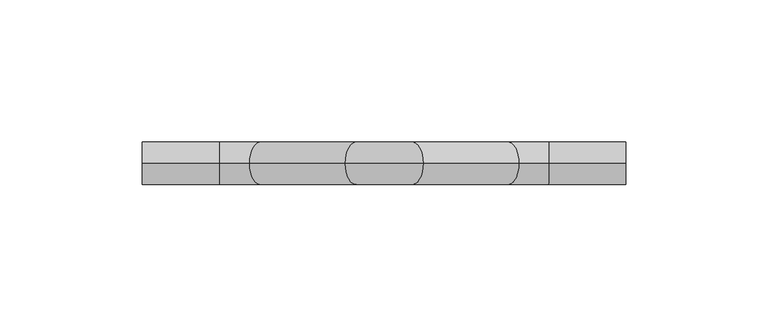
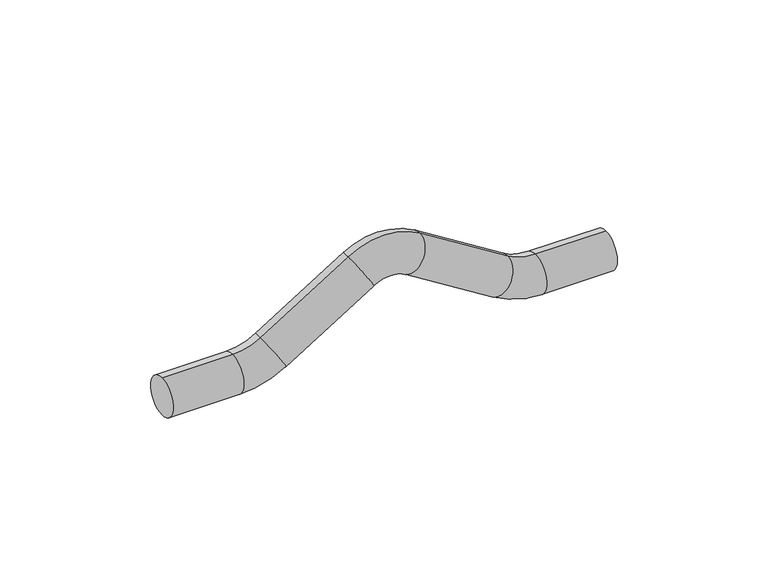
"""IFC4 building model written with IfcOpenShell, lengths in millimetres: pipe fitting geometry, РЕХАУ_Пресс Обвод : Обвод 15."""

import ifcopenshell
import ifcopenshell.guid

model = None  # the IFC model being written
_history = None  # IfcOwnerHistory: only IFC2X3 demands one
_inside = {}  # id of a spatial element -> (the spatial element, [elements in it])
_under = {}  # id of a project, library or spatial element -> (it, [spatial elements below it])
_declared = {}  # id of a project -> (the project, [libraries it declares])
_typed = {}  # id of a type object -> (the type object, [elements of that type])
_made_of = {}  # id of a material, layer set ... -> (it, [elements and type objects made of it])


def new_model(schema):
    """Start an empty IFC model of exactly this schema.

    Asked for "IFC4X3", IfcOpenShell would pick the latest addendum, in which some entities
    have other attributes; the version numbers below select the first issue.
    IFC2X3 requires an IfcOwnerHistory on every rooted entity: one is made here for all.
    """
    global model, _history
    if schema == "IFC4X3":
        model = ifcopenshell.file(schema_version=(4, 3, 0, 0))
    else:
        model = ifcopenshell.file(schema=schema)
    _inside.clear()
    _under.clear()
    _declared.clear()
    _typed.clear()
    _made_of.clear()
    _history = None
    if model.schema == "IFC2X3":
        org = make("IfcOrganization", Name="unknown")
        user = make(
            "IfcPersonAndOrganization",
            ThePerson=make("IfcPerson", FamilyName="unknown"),
            TheOrganization=org,
        )
        app = make(
            "IfcApplication",
            ApplicationDeveloper=org,
            Version="unknown",
            ApplicationFullName="unknown",
            ApplicationIdentifier="unknown",
        )
        _history = make(
            "IfcOwnerHistory",
            OwningUser=user,
            OwningApplication=app,
            ChangeAction="ADDED",
            CreationDate=0,
        )
    return model


def make(cls, **values):
    """One entity of the class cls with the attributes given. An attribute that is None is left unset."""
    return model.create_entity(
        cls, **{name: value for name, value in values.items() if value is not None}
    )


def rooted(cls, **values):
    """An entity with a GlobalId (a new one), such as an element, a storey or a relation."""
    return make(cls, GlobalId=ifcopenshell.guid.new(), OwnerHistory=_history, **values)


def si_unit(unit_type, name, prefix=None):
    """IfcSIUnit, for example si_unit("LENGTHUNIT", "METRE", prefix="MILLI")."""
    return make("IfcSIUnit", UnitType=unit_type, Prefix=prefix, Name=name)


def assignment(units):
    """IfcUnitAssignment: the units of a project."""
    return None if units is None else make("IfcUnitAssignment", Units=units)


def point(xyz):
    """IfcCartesianPoint."""
    return None if xyz is None else make("IfcCartesianPoint", Coordinates=xyz)


def direction(xyz):
    """IfcDirection."""
    return None if xyz is None else make("IfcDirection", DirectionRatios=xyz)


def frame(location, z_axis=None, x_axis=None):
    """IfcAxis2Placement3D, a coordinate frame: its origin and axes. An axis left out is left unset."""
    return make(
        "IfcAxis2Placement3D",
        Location=point(location),
        Axis=direction(z_axis),
        RefDirection=direction(x_axis),
    )


def origin():
    """The frame at (0, 0, 0) with its axes left unset."""
    return frame((0.0, 0.0, 0.0))


def place(relative_to, where):
    """IfcLocalPlacement: puts the frame where relative to a parent placement (None: the world)."""
    return make(
        "IfcLocalPlacement", PlacementRelTo=relative_to, RelativePlacement=where
    )


def context(
    kind, dimensions, precision=None, world=None, true_north=None, identifier=None
):
    """IfcGeometricRepresentationContext, for example the 3D "Model" context."""
    return make(
        "IfcGeometricRepresentationContext",
        ContextIdentifier=identifier,
        ContextType=kind,
        CoordinateSpaceDimension=dimensions,
        Precision=precision,
        WorldCoordinateSystem=world,
        TrueNorth=true_north,
    )


def project(units=None, contexts=None):
    """IfcProject with its units and contexts."""
    return rooted(
        "IfcProject",
        Name="project",
        RepresentationContexts=contexts,
        UnitsInContext=assignment(units),
    )


def spatial(cls, under=None, at=None, **own):
    """A site, building, storey or space (cls), placed at a placement, below another one or the project."""
    s = rooted(cls, ObjectPlacement=at, **own)
    if under is not None:
        _under.setdefault(under.id(), (under, []))[1].append(s)
    return s


def circle_curve(where, radius):
    """IfcCircle in the frame where."""
    return make("IfcCircle", Position=where, Radius=radius)


def ellipse_curve(where, semi_axis1, semi_axis2):
    """IfcEllipse in the frame where."""
    return make(
        "IfcEllipse", Position=where, SemiAxis1=semi_axis1, SemiAxis2=semi_axis2
    )


def trimmed(basis, trim1, trim2, sense, master):
    """IfcTrimmedCurve: the piece of a basis curve between two trims."""
    return make(
        "IfcTrimmedCurve",
        BasisCurve=basis,
        Trim1=trim1,
        Trim2=trim2,
        SenseAgreement=sense,
        MasterRepresentation=master,
    )


def shape(context_of_items, identifier, shape_type, items):
    """IfcShapeRepresentation: the items that make up one representation, for example the "Body"."""
    return make(
        "IfcShapeRepresentation",
        ContextOfItems=context_of_items,
        RepresentationIdentifier=identifier,
        RepresentationType=shape_type,
        Items=items,
    )


def source(mapping_origin, context_of_items, identifier, shape_type, items):
    """IfcRepresentationMap: a shape defined once, which mapped items show again and again."""
    return make(
        "IfcRepresentationMap",
        MappingOrigin=mapping_origin,
        MappedRepresentation=shape(context_of_items, identifier, shape_type, items),
    )


def transform(
    local_origin,
    x_axis=None,
    y_axis=None,
    z_axis=None,
    scale=None,
    scale2=None,
    scale3=None,
    uniform=True,
):
    """IfcCartesianTransformationOperator3D, or its non-uniform kind. x_axis, y_axis, z_axis: its Axis1, 2, 3."""
    if uniform:
        return make(
            "IfcCartesianTransformationOperator3D",
            Axis1=direction(x_axis),
            Axis2=direction(y_axis),
            LocalOrigin=point(local_origin),
            Scale=scale,
            Axis3=direction(z_axis),
        )
    return make(
        "IfcCartesianTransformationOperator3DnonUniform",
        Axis1=direction(x_axis),
        Axis2=direction(y_axis),
        LocalOrigin=point(local_origin),
        Scale=scale,
        Axis3=direction(z_axis),
        Scale2=scale2,
        Scale3=scale3,
    )


def mapped(mapping_source, mapping_target):
    """IfcMappedItem: shows the shape of a source again, moved by a transform."""
    return make(
        "IfcMappedItem", MappingSource=mapping_source, MappingTarget=mapping_target
    )


def made_of(thing, what):
    """Note that an element or type object is made of a material, layer set ...; save() writes the relation."""
    if what is not None:
        _made_of.setdefault(what.id(), (what, []))[1].append(thing)
    return thing


def element(
    cls,
    number,
    at=None,
    inside=None,
    cuts=None,
    type_object=None,
    material=None,
    context=None,
    identifier="Body",
    shape_type=None,
    held_by="IfcProductDefinitionShape",
    body=None,
    shapes=None,
    **own,
):
    """One element of the class cls, such as IfcWall. Its Tag is "e" and its number.

    at: its placement. inside: the storey or other place that contains it. cuts: it is an
    opening in that element (IfcRelVoidsElement). A single representation is given by context,
    identifier, shape_type and body (its items); several are given by shapes. held_by: the class
    of the entity that holds the representations. save() writes the other relations.
    """
    e = rooted(cls, Tag="e%d" % number, ObjectPlacement=at, **own)
    if body is not None:
        shapes = [shape(context, identifier, shape_type, body)]
    if shapes is not None:
        e.Representation = make(held_by, Representations=shapes)
    if inside is not None:
        _inside.setdefault(inside.id(), (inside, []))[1].append(e)
    if cuts is not None:
        rooted(
            "IfcRelVoidsElement", RelatingBuildingElement=cuts, RelatedOpeningElement=e
        )
    if type_object is not None:
        _typed.setdefault(type_object.id(), (type_object, []))[1].append(e)
    return made_of(e, material)


def aggregate(whole, parts):
    """IfcRelAggregates: a whole, such as a stair, and the parts it consists of."""
    return rooted("IfcRelAggregates", RelatingObject=whole, RelatedObjects=parts)


def save(model, path):
    """Write the relations noted so far, then the file.

    IfcRelAggregates (storeys below a building ...), IfcRelContainedInSpatialStructure (elements
    in a storey), IfcRelDefinesByType, IfcRelAssociatesMaterial and IfcRelDeclares: one each for
    every whole, place, type object, material and project.
    """
    for whole, parts in _under.values():
        aggregate(whole, parts)
    for where, things in _inside.values():
        rooted(
            "IfcRelContainedInSpatialStructure",
            RelatedElements=things,
            RelatingStructure=where,
        )
    for kind, things in _typed.values():
        rooted("IfcRelDefinesByType", RelatedObjects=things, RelatingType=kind)
    for what, things in _made_of.values():
        rooted("IfcRelAssociatesMaterial", RelatedObjects=things, RelatingMaterial=what)
    for by, libraries in _declared.values():
        rooted("IfcRelDeclares", RelatingContext=by, RelatedDefinitions=libraries)
    model.write(path)


def plane_surface(at):
    """IfcPlane: the flat surface through the origin of the frame at, square to its z axis."""
    return make("IfcPlane", Position=at)


def cylinder_surface(at, radius):
    """IfcCylindricalSurface: all points at the distance radius from the z axis of the frame at."""
    return make("IfcCylindricalSurface", Position=at, Radius=radius)


def revolved_surface(curve, axis_point, axis_direction):
    """IfcSurfaceOfRevolution: the curve turned about the line through axis_point along axis_direction."""
    return make(
        "IfcSurfaceOfRevolution",
        SweptCurve=make("IfcArbitraryOpenProfileDef", ProfileType="CURVE", Curve=curve),
        AxisPosition=make("IfcAxis1Placement", Location=point(axis_point), Axis=direction(axis_direction)),
    )


def advanced_brep(points, edges, surfaces, faces):
    """IfcAdvancedBrep: a solid bounded by faces that lie on surfaces and meet in shared edges.

    An edge is (start, end): straight between two places in points (the first is 0);
    or (start, end, curve); or (start, end, curve, False) where it runs against its curve.
    A face is (place in surfaces, loops), or (place, loops, False) where it looks against
    its surface's normal. A loop lists edges by number (the first is 1), with a minus sign
    where the edge is run from its end to its start. The first loop is the outer one.
    """
    corners = [point(p) for p in points]
    vertices = [make("IfcVertexPoint", VertexGeometry=c) for c in corners]
    made = []
    for start, end, *more in edges:
        made.append(
            make(
                "IfcEdgeCurve",
                EdgeStart=vertices[start],
                EdgeEnd=vertices[end],
                EdgeGeometry=more[0] if more else make("IfcPolyline", Points=[corners[start], corners[end]]),
                SameSense=more[1] if len(more) > 1 else True,
            )
        )
    hull = []
    for where, loops, *sense in faces:
        bounds = []
        for j, loop in enumerate(loops):
            ring = [make("IfcOrientedEdge", EdgeElement=made[abs(k) - 1], Orientation=k > 0) for k in loop]
            bounds.append(
                make(
                    "IfcFaceOuterBound" if j == 0 else "IfcFaceBound",
                    Bound=make("IfcEdgeLoop", EdgeList=ring),
                    Orientation=True,
                )
            )
        hull.append(make("IfcAdvancedFace", Bounds=bounds, FaceSurface=surfaces[where], SameSense=sense[0] if sense else True))
    return make("IfcAdvancedBrep", Outer=make("IfcClosedShell", CfsFaces=hull))


def pipe_fitting_329b4943(model_context):
    return source(origin(), model_context, "Body", "AdvancedBrep", [
        advanced_brep(
        [(0.0, 0.0, -7.5), (0.0, 0.0, 7.5), (27.0, 0.0, -7.5), (27.0, 0.0, 7.5), (37.5983853, 0.0, 10.5390381), (45.5471742, 0.0, -2.1816834), (79.1702497, 0.0, 18.828346), (71.2214607, 0.0, 31.5490674), (98.7785393, 0.0, 31.5490674), (90.8297503, 0.0, 18.828346), (124.4528258, 0.0, -2.1816834), (132.4016147, 0.0, 10.5390381), (143.0, 0.0, 7.5), (143.0, 0.0, -7.5), (170.0, 0.0, -7.5), (170.0, 0.0, 7.5)],
        [
            (0, 1, circle_curve(frame((0.0, 0.0, 0.0), z_axis=(-1.0, 0.0, 0.0), x_axis=(0.0, 0.0, 1.0)), 7.5)),
            (1, 0, circle_curve(frame((0.0, 0.0, 0.0), z_axis=(-1.0, 0.0, 0.0), x_axis=(0.0, 0.0, 1.0)), 7.5)),
            (0, 2),
            (2, 3, circle_curve(frame((27.0, 0.0, 0.0), z_axis=(-1.0, 0.0, 0.0), x_axis=(0.0, 0.0, 1.0)), 7.5)),
            (3, 1),
            (3, 2, circle_curve(frame((27.0, 0.0, 0.0), z_axis=(-1.0, 0.0, 0.0), x_axis=(0.0, 0.0, 1.0)), 7.5)),
            (4, 3, circle_curve(frame((27.0, 0.0, 27.5), z_axis=(0.0, 1.0, 0.0), x_axis=(0.0, 0.0, -1.0)), 20.0)),
            (2, 5, circle_curve(frame((27.0, 0.0, 27.5), z_axis=(0.0, -1.0, 0.0), x_axis=(0.0, 0.0, -1.0)), 35.0)),
            (5, 4, circle_curve(frame((41.5727798, 0.0, 4.1786774), z_axis=(-0.8480480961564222, 0.0, -0.529919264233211), x_axis=(-0.529919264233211, 0.0, 0.8480480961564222)), 7.5)),
            (4, 5, circle_curve(frame((41.5727798, 0.0, 4.1786774), z_axis=(-0.8480480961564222, 0.0, -0.5299192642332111), x_axis=(-0.5299192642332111, 0.0, 0.8480480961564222)), 7.5)),
            (5, 6),
            (6, 7, circle_curve(frame((75.1958552, 0.0, 25.1887067), z_axis=(-0.8480480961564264, 0.0, -0.5299192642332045), x_axis=(-0.5299192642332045, 0.0, 0.8480480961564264)), 7.5)),
            (7, 4),
            (7, 6, circle_curve(frame((75.1958552, 0.0, 25.1887067), z_axis=(-0.8480480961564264, 0.0, -0.5299192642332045), x_axis=(-0.5299192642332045, 0.0, 0.8480480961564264)), 7.5)),
            (8, 7, circle_curve(frame((85.0, 0.0, 9.4987953), z_axis=(0.0, -1.0, 0.0), x_axis=(-0.5299192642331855, 0.0, 0.8480480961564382)), 26.0012047)),
            (6, 9, circle_curve(frame((85.0, 0.0, 9.4987953), z_axis=(0.0, 1.0, 0.0), x_axis=(-0.5299192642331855, 0.0, 0.8480480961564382)), 11.0012047)),
            (9, 8, circle_curve(frame((94.8041448, 0.0, 25.1887067), z_axis=(-0.8480480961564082, 0.0, 0.5299192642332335), x_axis=(0.5299192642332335, 0.0, 0.8480480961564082)), 7.5)),
            (8, 9, circle_curve(frame((94.8041448, 0.0, 25.1887067), z_axis=(-0.8480480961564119, 0.0, 0.5299192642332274), x_axis=(0.5299192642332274, 0.0, 0.8480480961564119)), 7.5)),
            (9, 10),
            (10, 11, circle_curve(frame((128.4272202, 0.0, 4.1786774), z_axis=(-0.8480480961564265, 0.0, 0.5299192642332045), x_axis=(0.5299192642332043, 0.0, 0.8480480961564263)), 7.5)),
            (11, 8),
            (11, 10, circle_curve(frame((128.4272202, 0.0, 4.1786774), z_axis=(-0.8480480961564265, 0.0, 0.5299192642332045), x_axis=(0.5299192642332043, 0.0, 0.8480480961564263)), 7.5)),
            (12, 11, circle_curve(frame((143.0, 0.0, 27.5), z_axis=(0.0, 1.0, 0.0), x_axis=(-0.5299192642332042, 0.0, -0.8480480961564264)), 20.0)),
            (10, 13, circle_curve(frame((143.0, 0.0, 27.5), z_axis=(0.0, -1.0, 0.0), x_axis=(-0.5299192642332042, 0.0, -0.8480480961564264)), 35.0)),
            (13, 12, circle_curve(frame((143.0, 0.0, 0.0), z_axis=(-1.0, 0.0, 0.0), x_axis=(0.0, 0.0, 1.0)), 7.5)),
            (12, 13, circle_curve(frame((143.0, 0.0, 0.0), z_axis=(-1.0, 0.0, 0.0), x_axis=(0.0, 0.0, 1.0)), 7.5)),
            (14, 15, circle_curve(frame((170.0, 0.0, 0.0), z_axis=(1.0, 0.0, 0.0), x_axis=(0.0, 0.0, 1.0)), 7.5)),
            (15, 14, circle_curve(frame((170.0, 0.0, 0.0), z_axis=(1.0, 0.0, 0.0), x_axis=(0.0, 0.0, 1.0)), 7.5)),
            (13, 14),
            (15, 12),
        ],
        [
            plane_surface(frame((0.0, 0.0, 0.0), z_axis=(-1.0, 0.0, 0.0), x_axis=(0.0, -1.0, 0.0))),
            cylinder_surface(frame((0.0, 0.0, 0.0), z_axis=(-1.0, 0.0, 0.0), x_axis=(0.0, 0.0, 1.0)), 7.5),
            revolved_surface(trimmed(ellipse_curve(frame((27.0, 0.0, 0.0), z_axis=(-1.0, 0.0, 0.0), x_axis=(0.0, 0.0, 1.0)), 7.5, 7.5), [point((27.0, 0.0, -7.5))], [point((27.0, 0.0, 7.5))], True, "CARTESIAN"), (27.0, 0.0, 27.5), (0.0, -1.0, 0.0)),
            revolved_surface(trimmed(ellipse_curve(frame((27.0, 0.0, 0.0), z_axis=(-1.0, 0.0, 0.0), x_axis=(0.0, 0.0, 1.0)), 7.5, 7.5), [point((27.0, 0.0, 7.5))], [point((27.0, 0.0, -7.5))], True, "CARTESIAN"), (27.0, 0.0, 27.5), (0.0, -1.0, 0.0)),
            cylinder_surface(frame((41.5727798, 0.0, 4.1786774), z_axis=(-0.8480480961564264, 0.0, -0.5299192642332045), x_axis=(-0.5299192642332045, 0.0, 0.8480480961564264)), 7.5),
            revolved_surface(trimmed(ellipse_curve(frame((75.1958552, 0.0, 25.1887067), z_axis=(-0.8480480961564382, 0.0, -0.5299192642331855), x_axis=(-0.5299192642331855, 0.0, 0.8480480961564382)), 7.5, 7.5), [point((79.1702497, 0.0, 18.828346))], [point((71.2214607, 0.0, 31.5490674))], True, "CARTESIAN"), (85.0, 0.0, 9.4987953), (0.0, 1.0, 0.0)),
            revolved_surface(trimmed(ellipse_curve(frame((75.1958552, 0.0, 25.1887067), z_axis=(-0.8480480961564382, 0.0, -0.5299192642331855), x_axis=(-0.5299192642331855, 0.0, 0.8480480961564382)), 7.5, 7.5), [point((71.2214607, 0.0, 31.5490674))], [point((79.1702497, 0.0, 18.828346))], True, "CARTESIAN"), (85.0, 0.0, 9.4987953), (0.0, 1.0, 0.0)),
            cylinder_surface(frame((94.8041448, 0.0, 25.1887067), z_axis=(-0.8480480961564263, 0.0, 0.5299192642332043), x_axis=(0.5299192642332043, 0.0, 0.8480480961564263)), 7.5),
            revolved_surface(trimmed(ellipse_curve(frame((128.4272202, 0.0, 4.1786774), z_axis=(-0.8480480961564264, 0.0, 0.5299192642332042), x_axis=(0.5299192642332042, 0.0, 0.8480480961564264)), 7.5, 7.5), [point((124.4528258, 0.0, -2.1816834))], [point((132.4016147, 0.0, 10.5390381))], True, "CARTESIAN"), (143.0, 0.0, 27.5), (0.0, -1.0, 0.0)),
            revolved_surface(trimmed(ellipse_curve(frame((128.4272202, 0.0, 4.1786774), z_axis=(-0.8480480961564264, 0.0, 0.5299192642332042), x_axis=(0.5299192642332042, 0.0, 0.8480480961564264)), 7.5, 7.5), [point((132.4016147, 0.0, 10.5390381))], [point((124.4528258, 0.0, -2.1816834))], True, "CARTESIAN"), (143.0, 0.0, 27.5), (0.0, -1.0, 0.0)),
            plane_surface(frame((170.0, 0.0, 0.0), z_axis=(1.0, 0.0, 0.0), x_axis=(0.0, -1.0, 0.0))),
            cylinder_surface(frame((143.0, 0.0, 0.0), z_axis=(-1.0, 0.0, 0.0), x_axis=(0.0, 0.0, 1.0)), 7.5),
        ],
        [
            (0, [[1, 2]]),
            (1, [[-1, 3, 4, 5]]),
            (1, [[-2, -5, 6, -3]]),
            (2, [[7, -4, 8, 9]]),
            (3, [[-8, -6, -7, 10]]),
            (4, [[-9, 11, 12, 13]]),
            (4, [[-10, -13, 14, -11]]),
            (5, [[15, -12, 16, 17]]),
            (6, [[-16, -14, -15, 18]]),
            (7, [[-17, 19, 20, 21]]),
            (7, [[-18, -21, 22, -19]]),
            (8, [[23, -20, 24, 25]]),
            (9, [[-24, -22, -23, 26]]),
            (10, [[27, 28]]),
            (11, [[-25, 29, -28, 30]]),
            (11, [[-26, -30, -27, -29]]),
        ],
    ),
    ])


if __name__ == "__main__":
    model = new_model("IFC4")
    model_context = context("Model", 3, world=origin())
    ifc_project = project(units=[si_unit("LENGTHUNIT", "METRE", prefix="MILLI")], contexts=[model_context])
    site = spatial("IfcSite", under=ifc_project)
    building = spatial("IfcBuilding", under=site)
    placement = place(None, origin())
    pipe_fitting_shape = pipe_fitting_329b4943(model_context)
    element("IfcPipeFitting", 1, ObjectType="РЕХАУ_Пресс Обвод : Обвод 15", at=placement, inside=building, context=model_context, shape_type="MappedRepresentation", body=[
        mapped(pipe_fitting_shape, transform((0.0, 0.0, 0.0), x_axis=(1.0, 0.0, 0.0), y_axis=(0.0, 1.0, 0.0), z_axis=(0.0, 0.0, 1.0))),
    ])
    save(model, "model.ifc")
